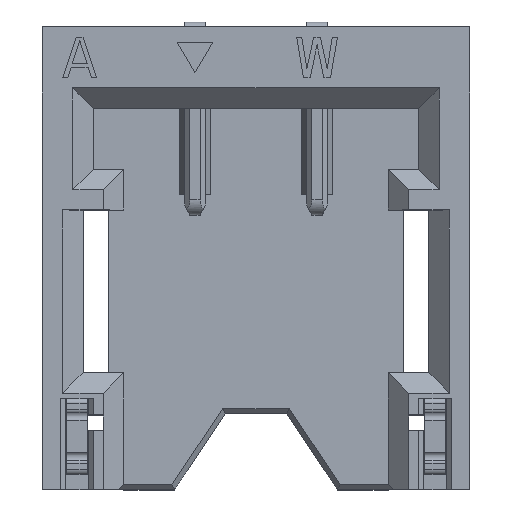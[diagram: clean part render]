
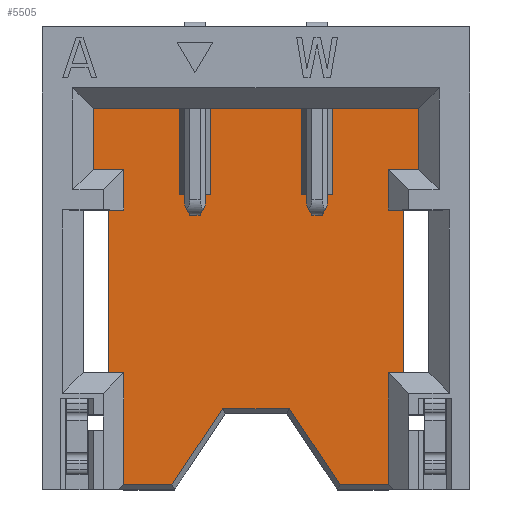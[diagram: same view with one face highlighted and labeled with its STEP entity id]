
A CAD part, top view. The second image highlights one B-rep face of the part: STEP entity #5505.
In plain terms, the highlighted planar face has unit normal (0, 0, 1).
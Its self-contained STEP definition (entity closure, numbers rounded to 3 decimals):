
#485=DIRECTION('',(-1.,0.,0.));
#486=VECTOR('',#485,0.473);
#487=CARTESIAN_POINT('',(1.273,0.05,-1.2));
#488=LINE('',#487,#486);
#493=DIRECTION('',(-1.,0.,0.));
#494=VECTOR('',#493,0.845);
#495=CARTESIAN_POINT('',(3.7,3.75,-1.2));
#496=LINE('',#495,#494);
#497=DIRECTION('',(0.555,-0.832,0.));
#498=VECTOR('',#497,0.901);
#499=CARTESIAN_POINT('',(2.427,0.8,-1.2));
#500=LINE('',#499,#498);
#501=DIRECTION('',(0.555,0.832,0.));
#502=VECTOR('',#501,0.901);
#503=CARTESIAN_POINT('',(1.273,0.05,-1.2));
#504=LINE('',#503,#502);
#505=DIRECTION('',(0.,-1.,0.));
#506=VECTOR('',#505,1.1);
#507=CARTESIAN_POINT('',(0.8,1.15,-1.2));
#508=LINE('',#507,#506);
#509=DIRECTION('',(1.,0.,0.));
#510=VECTOR('',#509,0.15);
#511=CARTESIAN_POINT('',(0.65,1.15,-1.2));
#512=LINE('',#511,#510);
#513=DIRECTION('',(-1.,0.,0.));
#514=VECTOR('',#513,0.15);
#515=CARTESIAN_POINT('',(0.8,2.75,-1.2));
#516=LINE('',#515,#514);
#517=DIRECTION('',(-1.,0.,0.));
#518=VECTOR('',#517,0.845);
#519=CARTESIAN_POINT('',(1.345,3.75,-1.2));
#520=LINE('',#519,#518);
#521=DIRECTION('',(0.,-1.,0.));
#522=VECTOR('',#521,0.85);
#523=CARTESIAN_POINT('',(1.655,3.75,-1.2));
#524=LINE('',#523,#522);
#525=DIRECTION('',(-1.,0.,0.));
#526=VECTOR('',#525,0.89);
#527=CARTESIAN_POINT('',(2.545,3.75,-1.2));
#528=LINE('',#527,#526);
#529=DIRECTION('',(0.,1.,0.));
#530=VECTOR('',#529,0.85);
#531=CARTESIAN_POINT('',(2.855,2.9,-1.2));
#532=LINE('',#531,#530);
#541=DIRECTION('',(1.,0.,0.));
#542=VECTOR('',#541,0.31);
#543=CARTESIAN_POINT('',(2.545,2.9,-1.2));
#544=LINE('',#543,#542);
#667=DIRECTION('',(0.,-1.,0.));
#668=VECTOR('',#667,0.85);
#669=CARTESIAN_POINT('',(2.545,3.75,-1.2));
#670=LINE('',#669,#668);
#1701=DIRECTION('',(1.,0.,0.));
#1702=VECTOR('',#1701,0.31);
#1703=CARTESIAN_POINT('',(1.345,2.9,-1.2));
#1704=LINE('',#1703,#1702);
#1857=DIRECTION('',(0.,-1.,0.));
#1858=VECTOR('',#1857,0.85);
#1859=CARTESIAN_POINT('',(1.345,3.75,-1.2));
#1860=LINE('',#1859,#1858);
#2141=DIRECTION('',(0.,-1.,0.));
#2142=VECTOR('',#2141,0.6);
#2143=CARTESIAN_POINT('',(0.5,3.75,-1.2));
#2144=LINE('',#2143,#2142);
#2173=DIRECTION('',(1.,0.,0.));
#2174=VECTOR('',#2173,0.3);
#2175=CARTESIAN_POINT('',(0.5,3.15,-1.2));
#2176=LINE('',#2175,#2174);
#2229=DIRECTION('',(0.,1.,0.));
#2230=VECTOR('',#2229,0.6);
#2231=CARTESIAN_POINT('',(3.7,3.15,-1.2));
#2232=LINE('',#2231,#2230);
#2281=DIRECTION('',(1.,0.,0.));
#2282=VECTOR('',#2281,0.3);
#2283=CARTESIAN_POINT('',(3.4,3.15,-1.2));
#2284=LINE('',#2283,#2282);
#2305=DIRECTION('',(-1.,0.,0.));
#2306=VECTOR('',#2305,0.15);
#2307=CARTESIAN_POINT('',(3.55,2.75,-1.2));
#2308=LINE('',#2307,#2306);
#2909=DIRECTION('',(-1.,0.,0.));
#2910=VECTOR('',#2909,0.473);
#2911=CARTESIAN_POINT('',(3.4,0.05,-1.2));
#2912=LINE('',#2911,#2910);
#2937=DIRECTION('',(0.,1.,0.));
#2938=VECTOR('',#2937,1.1);
#2939=CARTESIAN_POINT('',(3.4,0.05,-1.2));
#2940=LINE('',#2939,#2938);
#2957=DIRECTION('',(1.,0.,0.));
#2958=VECTOR('',#2957,0.15);
#2959=CARTESIAN_POINT('',(3.4,1.15,-1.2));
#2960=LINE('',#2959,#2958);
#2973=DIRECTION('',(0.,1.,0.));
#2974=VECTOR('',#2973,1.6);
#2975=CARTESIAN_POINT('',(3.55,1.15,-1.2));
#2976=LINE('',#2975,#2974);
#2997=DIRECTION('',(-1.,0.,0.));
#2998=VECTOR('',#2997,0.654);
#2999=CARTESIAN_POINT('',(2.427,0.8,-1.2));
#3000=LINE('',#2999,#2998);
#3025=DIRECTION('',(0.,1.,0.));
#3026=VECTOR('',#3025,0.4);
#3027=CARTESIAN_POINT('',(3.4,2.75,-1.2));
#3028=LINE('',#3027,#3026);
#3089=DIRECTION('',(0.,-1.,0.));
#3090=VECTOR('',#3089,1.6);
#3091=CARTESIAN_POINT('',(0.65,2.75,-1.2));
#3092=LINE('',#3091,#3090);
#3365=DIRECTION('',(0.,-1.,0.));
#3366=VECTOR('',#3365,0.4);
#3367=CARTESIAN_POINT('',(0.8,3.15,-1.2));
#3368=LINE('',#3367,#3366);
#4097=CARTESIAN_POINT('',(0.8,0.05,-1.2));
#4098=VERTEX_POINT('',#4097);
#4099=CARTESIAN_POINT('',(0.8,1.15,-1.2));
#4100=VERTEX_POINT('',#4099);
#4107=CARTESIAN_POINT('',(0.65,1.15,-1.2));
#4108=VERTEX_POINT('',#4107);
#4123=CARTESIAN_POINT('',(0.65,2.75,-1.2));
#4124=VERTEX_POINT('',#4123);
#4125=CARTESIAN_POINT('',(0.8,2.75,-1.2));
#4126=VERTEX_POINT('',#4125);
#4143=CARTESIAN_POINT('',(0.5,3.75,-1.2));
#4144=VERTEX_POINT('',#4143);
#4145=CARTESIAN_POINT('',(1.345,3.75,-1.2));
#4146=VERTEX_POINT('',#4145);
#4155=CARTESIAN_POINT('',(1.655,3.75,-1.2));
#4156=VERTEX_POINT('',#4155);
#4157=CARTESIAN_POINT('',(2.545,3.75,-1.2));
#4158=VERTEX_POINT('',#4157);
#4167=CARTESIAN_POINT('',(2.855,3.75,-1.2));
#4168=VERTEX_POINT('',#4167);
#4169=CARTESIAN_POINT('',(3.7,3.75,-1.2));
#4170=VERTEX_POINT('',#4169);
#4267=CARTESIAN_POINT('',(1.655,2.9,-1.2));
#4268=VERTEX_POINT('',#4267);
#4269=CARTESIAN_POINT('',(2.855,2.9,-1.2));
#4270=VERTEX_POINT('',#4269);
#4271=CARTESIAN_POINT('',(3.7,3.15,-1.2));
#4272=VERTEX_POINT('',#4271);
#4273=CARTESIAN_POINT('',(3.4,3.15,-1.2));
#4274=VERTEX_POINT('',#4273);
#4275=CARTESIAN_POINT('',(3.4,2.75,-1.2));
#4276=VERTEX_POINT('',#4275);
#4277=CARTESIAN_POINT('',(3.55,2.75,-1.2));
#4278=VERTEX_POINT('',#4277);
#4279=CARTESIAN_POINT('',(3.55,1.15,-1.2));
#4280=VERTEX_POINT('',#4279);
#4281=CARTESIAN_POINT('',(3.4,1.15,-1.2));
#4282=VERTEX_POINT('',#4281);
#4283=CARTESIAN_POINT('',(3.4,0.05,-1.2));
#4284=VERTEX_POINT('',#4283);
#4285=CARTESIAN_POINT('',(2.927,0.05,-1.2));
#4286=VERTEX_POINT('',#4285);
#4287=CARTESIAN_POINT('',(2.427,0.8,-1.2));
#4288=VERTEX_POINT('',#4287);
#4289=CARTESIAN_POINT('',(1.773,0.8,-1.2));
#4290=VERTEX_POINT('',#4289);
#4291=CARTESIAN_POINT('',(1.273,0.05,-1.2));
#4292=VERTEX_POINT('',#4291);
#4293=CARTESIAN_POINT('',(0.8,3.15,-1.2));
#4294=VERTEX_POINT('',#4293);
#4295=CARTESIAN_POINT('',(0.5,3.15,-1.2));
#4296=VERTEX_POINT('',#4295);
#4297=CARTESIAN_POINT('',(1.345,2.9,-1.2));
#4298=VERTEX_POINT('',#4297);
#4299=CARTESIAN_POINT('',(2.545,2.9,-1.2));
#4300=VERTEX_POINT('',#4299);
#5444=CARTESIAN_POINT('',(2.1,1.9,-1.2));
#5445=DIRECTION('',(0.,0.,1.));
#5446=DIRECTION('',(1.,0.,0.));
#5447=AXIS2_PLACEMENT_3D('',#5444,#5445,#5446);
#5448=PLANE('',#5447);
#5450=ORIENTED_EDGE('',*,*,#5449,.T.);
#5452=ORIENTED_EDGE('',*,*,#5451,.F.);
#5454=ORIENTED_EDGE('',*,*,#5453,.F.);
#5456=ORIENTED_EDGE('',*,*,#5455,.F.);
#5458=ORIENTED_EDGE('',*,*,#5457,.F.);
#5460=ORIENTED_EDGE('',*,*,#5459,.F.);
#5462=ORIENTED_EDGE('',*,*,#5461,.F.);
#5464=ORIENTED_EDGE('',*,*,#5463,.F.);
#5466=ORIENTED_EDGE('',*,*,#5465,.F.);
#5468=ORIENTED_EDGE('',*,*,#5467,.T.);
#5470=ORIENTED_EDGE('',*,*,#5469,.F.);
#5472=ORIENTED_EDGE('',*,*,#5471,.T.);
#5473=ORIENTED_EDGE('',*,*,#5423,.F.);
#5474=ORIENTED_EDGE('',*,*,#5435,.T.);
#5476=ORIENTED_EDGE('',*,*,#5475,.F.);
#5478=ORIENTED_EDGE('',*,*,#5477,.F.);
#5480=ORIENTED_EDGE('',*,*,#5479,.F.);
#5482=ORIENTED_EDGE('',*,*,#5481,.F.);
#5484=ORIENTED_EDGE('',*,*,#5483,.F.);
#5486=ORIENTED_EDGE('',*,*,#5485,.F.);
#5488=ORIENTED_EDGE('',*,*,#5487,.F.);
#5490=ORIENTED_EDGE('',*,*,#5489,.F.);
#5492=ORIENTED_EDGE('',*,*,#5491,.T.);
#5494=ORIENTED_EDGE('',*,*,#5493,.T.);
#5496=ORIENTED_EDGE('',*,*,#5495,.F.);
#5498=ORIENTED_EDGE('',*,*,#5497,.F.);
#5500=ORIENTED_EDGE('',*,*,#5499,.T.);
#5502=ORIENTED_EDGE('',*,*,#5501,.T.);
#5503=EDGE_LOOP('',(#5450,#5452,#5454,#5456,#5458,#5460,#5462,#5464,#5466,#5468,
#5470,#5472,#5473,#5474,#5476,#5478,#5480,#5482,#5484,#5486,#5488,#5490,#5492,
#5494,#5496,#5498,#5500,#5502));
#5504=FACE_OUTER_BOUND('',#5503,.F.);
#5505=ADVANCED_FACE('',(#5504),#5448,.T.);
#5423=EDGE_CURVE('',#4292,#4290,#504,.T.);
#5435=EDGE_CURVE('',#4292,#4098,#488,.T.);
#5449=EDGE_CURVE('',#4270,#4168,#532,.T.);
#5451=EDGE_CURVE('',#4170,#4168,#496,.T.);
#5453=EDGE_CURVE('',#4272,#4170,#2232,.T.);
#5455=EDGE_CURVE('',#4274,#4272,#2284,.T.);
#5457=EDGE_CURVE('',#4276,#4274,#3028,.T.);
#5459=EDGE_CURVE('',#4278,#4276,#2308,.T.);
#5461=EDGE_CURVE('',#4280,#4278,#2976,.T.);
#5463=EDGE_CURVE('',#4282,#4280,#2960,.T.);
#5465=EDGE_CURVE('',#4284,#4282,#2940,.T.);
#5467=EDGE_CURVE('',#4284,#4286,#2912,.T.);
#5469=EDGE_CURVE('',#4288,#4286,#500,.T.);
#5471=EDGE_CURVE('',#4288,#4290,#3000,.T.);
#5475=EDGE_CURVE('',#4100,#4098,#508,.T.);
#5477=EDGE_CURVE('',#4108,#4100,#512,.T.);
#5479=EDGE_CURVE('',#4124,#4108,#3092,.T.);
#5481=EDGE_CURVE('',#4126,#4124,#516,.T.);
#5483=EDGE_CURVE('',#4294,#4126,#3368,.T.);
#5485=EDGE_CURVE('',#4296,#4294,#2176,.T.);
#5487=EDGE_CURVE('',#4144,#4296,#2144,.T.);
#5489=EDGE_CURVE('',#4146,#4144,#520,.T.);
#5491=EDGE_CURVE('',#4146,#4298,#1860,.T.);
#5493=EDGE_CURVE('',#4298,#4268,#1704,.T.);
#5495=EDGE_CURVE('',#4156,#4268,#524,.T.);
#5497=EDGE_CURVE('',#4158,#4156,#528,.T.);
#5499=EDGE_CURVE('',#4158,#4300,#670,.T.);
#5501=EDGE_CURVE('',#4300,#4270,#544,.T.);
